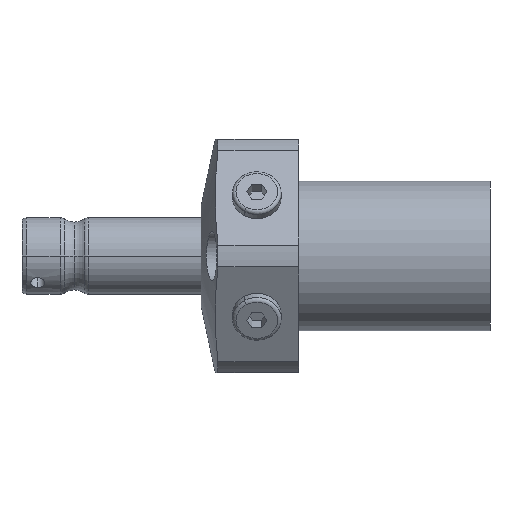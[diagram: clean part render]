
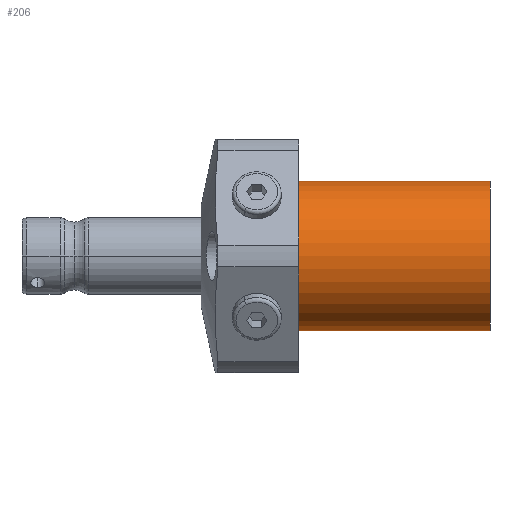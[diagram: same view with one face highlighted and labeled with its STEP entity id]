
A CAD part, left-side view. The second image highlights one B-rep face of the part: STEP entity #206.
In plain terms, the highlighted cylindrical face has radius 21.5 mm (diameter 43 mm), a partial arc.
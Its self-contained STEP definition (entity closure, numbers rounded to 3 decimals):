
#123 = FACE_OUTER_BOUND ( 'NONE', #3779, .T. ) ;
#206 = ADVANCED_FACE ( 'NONE', ( #123 ), #2443, .T. ) ;
#215 = DIRECTION ( 'NONE',  ( 0., -1., 0. ) ) ;
#249 = CARTESIAN_POINT ( 'NONE',  ( 0., 0., 21.5 ) ) ;
#378 = CARTESIAN_POINT ( 'NONE',  ( 0., 0., -21.5 ) ) ;
#435 = LINE ( 'NONE', #3144, #1954 ) ;
#452 = DIRECTION ( 'NONE',  ( 0., -1., 0. ) ) ;
#519 = CARTESIAN_POINT ( 'NONE',  ( 0., 0., 0. ) ) ;
#697 = EDGE_CURVE ( 'NONE', #2282, #3910, #3013, .T. ) ;
#763 = ORIENTED_EDGE ( 'NONE', *, *, #1279, .T. ) ;
#895 = AXIS2_PLACEMENT_3D ( 'NONE', #1231, #3331, #1533 ) ;
#953 = VERTEX_POINT ( 'NONE', #378 ) ;
#1046 = ORIENTED_EDGE ( 'NONE', *, *, #1516, .F. ) ;
#1231 = CARTESIAN_POINT ( 'NONE',  ( 0., 55., 0. ) ) ;
#1279 = EDGE_CURVE ( 'NONE', #3505, #953, #435, .T. ) ;
#1312 = AXIS2_PLACEMENT_3D ( 'NONE', #519, #215, #2326 ) ;
#1326 = CARTESIAN_POINT ( 'NONE',  ( 0., 0., 0. ) ) ;
#1398 = VECTOR ( 'NONE', #3257, 1000. ) ;
#1516 = EDGE_CURVE ( 'NONE', #3910, #953, #2189, .T. ) ;
#1533 = DIRECTION ( 'NONE',  ( 0., 0., -1. ) ) ;
#1630 = DIRECTION ( 'NONE',  ( 0., 0., -1. ) ) ;
#1954 = VECTOR ( 'NONE', #452, 1000. ) ;
#2149 = ORIENTED_EDGE ( 'NONE', *, *, #3587, .T. ) ;
#2189 = CIRCLE ( 'NONE', #3631, 21.5 ) ;
#2282 = VERTEX_POINT ( 'NONE', #2368 ) ;
#2326 = DIRECTION ( 'NONE',  ( 0., 0., -1. ) ) ;
#2327 = ORIENTED_EDGE ( 'NONE', *, *, #697, .F. ) ;
#2366 = CARTESIAN_POINT ( 'NONE',  ( 0., 55., -21.5 ) ) ;
#2368 = CARTESIAN_POINT ( 'NONE',  ( 0., 55., 21.5 ) ) ;
#2443 = CYLINDRICAL_SURFACE ( 'NONE', #1312, 21.5 ) ;
#2446 = CIRCLE ( 'NONE', #895, 21.5 ) ;
#2902 = CARTESIAN_POINT ( 'NONE',  ( 0., 0., 21.5 ) ) ;
#3013 = LINE ( 'NONE', #249, #1398 ) ;
#3144 = CARTESIAN_POINT ( 'NONE',  ( 0., 0., -21.5 ) ) ;
#3257 = DIRECTION ( 'NONE',  ( 0., -1., 0. ) ) ;
#3331 = DIRECTION ( 'NONE',  ( 0., -1., 0. ) ) ;
#3433 = DIRECTION ( 'NONE',  ( 0., -1., 0. ) ) ;
#3505 = VERTEX_POINT ( 'NONE', #2366 ) ;
#3587 = EDGE_CURVE ( 'NONE', #2282, #3505, #2446, .T. ) ;
#3631 = AXIS2_PLACEMENT_3D ( 'NONE', #1326, #3433, #1630 ) ;
#3779 = EDGE_LOOP ( 'NONE', ( #2327, #2149, #763, #1046 ) ) ;
#3910 = VERTEX_POINT ( 'NONE', #2902 ) ;
